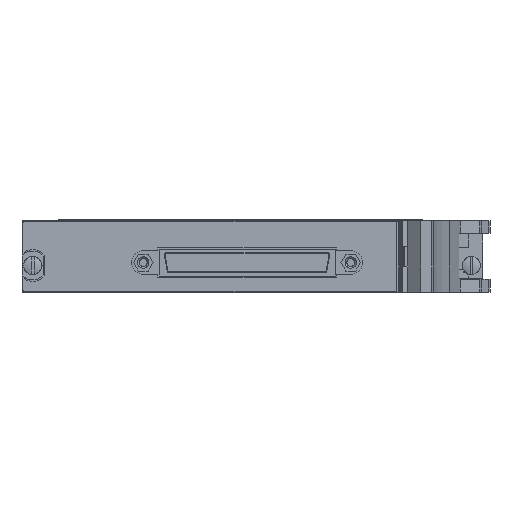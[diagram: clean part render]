
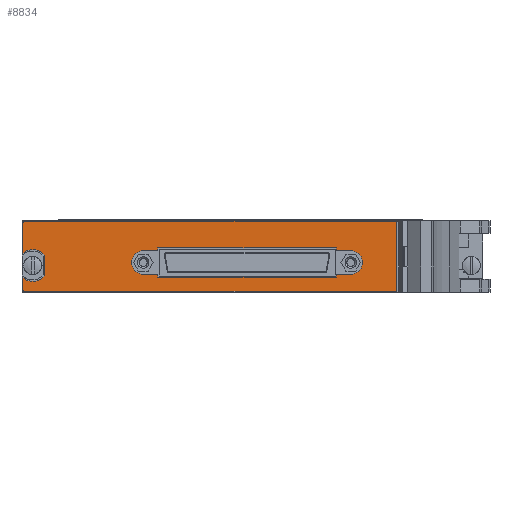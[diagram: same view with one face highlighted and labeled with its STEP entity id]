
A CAD part, left-side view. The second image highlights one B-rep face of the part: STEP entity #8834.
In plain terms, the highlighted planar face has unit normal (-1, 0, 0).
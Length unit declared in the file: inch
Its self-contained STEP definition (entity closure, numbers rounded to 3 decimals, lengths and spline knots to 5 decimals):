
#2443=CARTESIAN_POINT('',(-0.215,0.527,0.665));
#2444=DIRECTION('',(-1.,0.,0.));
#2445=DIRECTION('',(0.,0.,1.));
#2446=AXIS2_PLACEMENT_3D('',#2443,#2444,#2445);
#2448=DIRECTION('',(0.,1.,0.));
#2449=VECTOR('',#2448,4.07);
#2450=CARTESIAN_POINT('',(-0.215,-3.543,0.685));
#2451=LINE('',#2450,#2449);
#2452=CARTESIAN_POINT('',(-0.215,-3.543,0.665));
#2453=DIRECTION('',(-1.,0.,0.));
#2454=DIRECTION('',(0.,-1.,0.));
#2455=AXIS2_PLACEMENT_3D('',#2452,#2453,#2454);
#2457=DIRECTION('',(0.,0.,1.));
#2458=VECTOR('',#2457,0.728);
#2459=CARTESIAN_POINT('',(-0.215,-3.563,-0.063));
#2460=LINE('',#2459,#2458);
#2461=CARTESIAN_POINT('',(-0.215,-3.543,-0.063));
#2462=DIRECTION('',(-1.,0.,0.));
#2463=DIRECTION('',(0.,0.,-1.));
#2464=AXIS2_PLACEMENT_3D('',#2461,#2462,#2463);
#2466=DIRECTION('',(0.,-1.,0.));
#2467=VECTOR('',#2466,4.07);
#2468=CARTESIAN_POINT('',(-0.215,0.527,-0.083));
#2469=LINE('',#2468,#2467);
#2470=CARTESIAN_POINT('',(-0.215,0.527,-0.063));
#2471=DIRECTION('',(-1.,0.,0.));
#2472=DIRECTION('',(0.,1.,0.));
#2473=AXIS2_PLACEMENT_3D('',#2470,#2471,#2472);
#2475=DIRECTION('',(0.,0.,-1.));
#2476=VECTOR('',#2475,0.1263);
#2477=CARTESIAN_POINT('',(-0.215,0.547,0.0633));
#2478=LINE('',#2477,#2476);
#2479=CARTESIAN_POINT('',(-0.215,0.439,0.201));
#2480=DIRECTION('',(1.,0.,0.));
#2481=DIRECTION('',(0.,-0.76,-0.65));
#2482=AXIS2_PLACEMENT_3D('',#2479,#2480,#2481);
#2484=DIRECTION('',(0.,0.,-1.));
#2485=VECTOR('',#2484,0.22747);
#2486=CARTESIAN_POINT('',(-0.215,0.306,0.31474));
#2487=LINE('',#2486,#2485);
#2488=CARTESIAN_POINT('',(-0.215,0.439,0.201));
#2489=DIRECTION('',(1.,0.,0.));
#2490=DIRECTION('',(0.,0.617,0.787));
#2491=AXIS2_PLACEMENT_3D('',#2488,#2489,#2490);
#2493=DIRECTION('',(0.,0.,-1.));
#2494=VECTOR('',#2493,0.3263);
#2495=CARTESIAN_POINT('',(-0.215,0.547,0.665));
#2496=LINE('',#2495,#2494);
#2497=DIRECTION('',(0.,1.,0.));
#2498=VECTOR('',#2497,1.964);
#2499=CARTESIAN_POINT('',(-0.215,-2.897,0.3955));
#2500=LINE('',#2499,#2498);
#2501=DIRECTION('',(0.,0.,-1.));
#2502=VECTOR('',#2501,0.0325);
#2503=CARTESIAN_POINT('',(-0.215,-0.933,0.3955));
#2504=LINE('',#2503,#2502);
#2505=DIRECTION('',(0.,1.,0.));
#2506=VECTOR('',#2505,0.158);
#2507=CARTESIAN_POINT('',(-0.215,-0.933,0.363));
#2508=LINE('',#2507,#2506);
#2509=CARTESIAN_POINT('',(-0.215,-0.775,0.233));
#2510=DIRECTION('',(-1.,0.,0.));
#2511=DIRECTION('',(0.,0.,1.));
#2512=AXIS2_PLACEMENT_3D('',#2509,#2510,#2511);
#2514=DIRECTION('',(0.,-1.,0.));
#2515=VECTOR('',#2514,0.158);
#2516=CARTESIAN_POINT('',(-0.215,-0.775,0.103));
#2517=LINE('',#2516,#2515);
#2518=DIRECTION('',(0.,0.,-1.));
#2519=VECTOR('',#2518,0.0325);
#2520=CARTESIAN_POINT('',(-0.215,-0.933,0.103));
#2521=LINE('',#2520,#2519);
#2522=DIRECTION('',(0.,-1.,0.));
#2523=VECTOR('',#2522,1.964);
#2524=CARTESIAN_POINT('',(-0.215,-0.933,0.0705));
#2525=LINE('',#2524,#2523);
#2526=DIRECTION('',(0.,0.,1.));
#2527=VECTOR('',#2526,0.0325);
#2528=CARTESIAN_POINT('',(-0.215,-2.897,0.0705));
#2529=LINE('',#2528,#2527);
#2530=DIRECTION('',(0.,-1.,0.));
#2531=VECTOR('',#2530,0.158);
#2532=CARTESIAN_POINT('',(-0.215,-2.897,0.103));
#2533=LINE('',#2532,#2531);
#2534=CARTESIAN_POINT('',(-0.215,-3.055,0.233));
#2535=DIRECTION('',(-1.,0.,0.));
#2536=DIRECTION('',(0.,0.,-1.));
#2537=AXIS2_PLACEMENT_3D('',#2534,#2535,#2536);
#2539=DIRECTION('',(0.,1.,0.));
#2540=VECTOR('',#2539,0.158);
#2541=CARTESIAN_POINT('',(-0.215,-3.055,0.363));
#2542=LINE('',#2541,#2540);
#2543=DIRECTION('',(0.,0.,1.));
#2544=VECTOR('',#2543,0.0325);
#2545=CARTESIAN_POINT('',(-0.215,-2.897,0.363));
#2546=LINE('',#2545,#2544);
#5075=CARTESIAN_POINT('',(-0.215,0.527,0.685));
#5076=CARTESIAN_POINT('',(-0.215,0.547,0.665));
#5077=VERTEX_POINT('',#5075);
#5078=VERTEX_POINT('',#5076);
#5079=CARTESIAN_POINT('',(-0.215,0.547,0.3387));
#5080=VERTEX_POINT('',#5079);
#5081=CARTESIAN_POINT('',(-0.215,0.306,0.31474));
#5082=VERTEX_POINT('',#5081);
#5083=CARTESIAN_POINT('',(-0.215,0.306,0.08726));
#5084=VERTEX_POINT('',#5083);
#5085=CARTESIAN_POINT('',(-0.215,0.547,0.0633));
#5086=VERTEX_POINT('',#5085);
#5087=CARTESIAN_POINT('',(-0.215,0.547,-0.063));
#5088=VERTEX_POINT('',#5087);
#5089=CARTESIAN_POINT('',(-0.215,0.527,-0.083));
#5090=VERTEX_POINT('',#5089);
#5091=CARTESIAN_POINT('',(-0.215,-3.543,-0.083));
#5092=VERTEX_POINT('',#5091);
#5093=CARTESIAN_POINT('',(-0.215,-3.563,-0.063));
#5094=VERTEX_POINT('',#5093);
#5095=CARTESIAN_POINT('',(-0.215,-3.563,0.665));
#5096=VERTEX_POINT('',#5095);
#5097=CARTESIAN_POINT('',(-0.215,-3.543,0.685));
#5098=VERTEX_POINT('',#5097);
#5099=CARTESIAN_POINT('',(-0.215,-2.897,0.3955));
#5100=CARTESIAN_POINT('',(-0.215,-0.933,0.3955));
#5101=VERTEX_POINT('',#5099);
#5102=VERTEX_POINT('',#5100);
#5103=CARTESIAN_POINT('',(-0.215,-0.933,0.363));
#5104=VERTEX_POINT('',#5103);
#5105=CARTESIAN_POINT('',(-0.215,-0.775,0.363));
#5106=VERTEX_POINT('',#5105);
#5107=CARTESIAN_POINT('',(-0.215,-0.775,0.103));
#5108=VERTEX_POINT('',#5107);
#5109=CARTESIAN_POINT('',(-0.215,-0.933,0.103));
#5110=VERTEX_POINT('',#5109);
#5111=CARTESIAN_POINT('',(-0.215,-0.933,0.0705));
#5112=VERTEX_POINT('',#5111);
#5113=CARTESIAN_POINT('',(-0.215,-2.897,0.0705));
#5114=VERTEX_POINT('',#5113);
#5115=CARTESIAN_POINT('',(-0.215,-2.897,0.103));
#5116=VERTEX_POINT('',#5115);
#5117=CARTESIAN_POINT('',(-0.215,-3.055,0.103));
#5118=VERTEX_POINT('',#5117);
#5119=CARTESIAN_POINT('',(-0.215,-3.055,0.363));
#5120=VERTEX_POINT('',#5119);
#5121=CARTESIAN_POINT('',(-0.215,-2.897,0.363));
#5122=VERTEX_POINT('',#5121);
#8788=CARTESIAN_POINT('',(-0.215,0.439,0.201));
#8789=DIRECTION('',(-1.,0.,0.));
#8790=DIRECTION('',(0.,0.,1.));
#8791=AXIS2_PLACEMENT_3D('',#8788,#8789,#8790);
#8792=PLANE('',#8791);
#8793=ORIENTED_EDGE('',*,*,#7954,.F.);
#8795=ORIENTED_EDGE('',*,*,#8794,.F.);
#8796=ORIENTED_EDGE('',*,*,#8655,.F.);
#8797=ORIENTED_EDGE('',*,*,#8671,.F.);
#8798=ORIENTED_EDGE('',*,*,#8685,.F.);
#8799=ORIENTED_EDGE('',*,*,#8699,.F.);
#8800=ORIENTED_EDGE('',*,*,#8713,.F.);
#8801=ORIENTED_EDGE('',*,*,#8727,.F.);
#8802=ORIENTED_EDGE('',*,*,#8741,.F.);
#8803=ORIENTED_EDGE('',*,*,#8755,.F.);
#8804=ORIENTED_EDGE('',*,*,#8769,.F.);
#8805=ORIENTED_EDGE('',*,*,#8782,.F.);
#8806=EDGE_LOOP('',(#8793,#8795,#8796,#8797,#8798,#8799,#8800,#8801,#8802,#8803,
#8804,#8805));
#8807=FACE_OUTER_BOUND('',#8806,.F.);
#8809=ORIENTED_EDGE('',*,*,#8808,.T.);
#8811=ORIENTED_EDGE('',*,*,#8810,.T.);
#8813=ORIENTED_EDGE('',*,*,#8812,.T.);
#8815=ORIENTED_EDGE('',*,*,#8814,.T.);
#8817=ORIENTED_EDGE('',*,*,#8816,.T.);
#8819=ORIENTED_EDGE('',*,*,#8818,.T.);
#8821=ORIENTED_EDGE('',*,*,#8820,.T.);
#8823=ORIENTED_EDGE('',*,*,#8822,.T.);
#8825=ORIENTED_EDGE('',*,*,#8824,.T.);
#8827=ORIENTED_EDGE('',*,*,#8826,.T.);
#8829=ORIENTED_EDGE('',*,*,#8828,.T.);
#8831=ORIENTED_EDGE('',*,*,#8830,.T.);
#8832=EDGE_LOOP('',(#8809,#8811,#8813,#8815,#8817,#8819,#8821,#8823,#8825,#8827,
#8829,#8831));
#8833=FACE_BOUND('',#8832,.F.);
#8834=ADVANCED_FACE('',(#8807,#8833),#8792,.T.);
#2447=CIRCLE('',#2446,0.02);
#2456=CIRCLE('',#2455,0.02);
#2465=CIRCLE('',#2464,0.02);
#2474=CIRCLE('',#2473,0.02);
#2483=CIRCLE('',#2482,0.175);
#2492=CIRCLE('',#2491,0.175);
#2513=CIRCLE('',#2512,0.13);
#2538=CIRCLE('',#2537,0.13);
#7954=EDGE_CURVE('',#5077,#5078,#2447,.T.);
#8655=EDGE_CURVE('',#5096,#5098,#2456,.T.);
#8671=EDGE_CURVE('',#5094,#5096,#2460,.T.);
#8685=EDGE_CURVE('',#5092,#5094,#2465,.T.);
#8699=EDGE_CURVE('',#5090,#5092,#2469,.T.);
#8713=EDGE_CURVE('',#5088,#5090,#2474,.T.);
#8727=EDGE_CURVE('',#5086,#5088,#2478,.T.);
#8741=EDGE_CURVE('',#5084,#5086,#2483,.T.);
#8755=EDGE_CURVE('',#5082,#5084,#2487,.T.);
#8769=EDGE_CURVE('',#5080,#5082,#2492,.T.);
#8782=EDGE_CURVE('',#5078,#5080,#2496,.T.);
#8794=EDGE_CURVE('',#5098,#5077,#2451,.T.);
#8808=EDGE_CURVE('',#5101,#5102,#2500,.T.);
#8810=EDGE_CURVE('',#5102,#5104,#2504,.T.);
#8812=EDGE_CURVE('',#5104,#5106,#2508,.T.);
#8814=EDGE_CURVE('',#5106,#5108,#2513,.T.);
#8816=EDGE_CURVE('',#5108,#5110,#2517,.T.);
#8818=EDGE_CURVE('',#5110,#5112,#2521,.T.);
#8820=EDGE_CURVE('',#5112,#5114,#2525,.T.);
#8822=EDGE_CURVE('',#5114,#5116,#2529,.T.);
#8824=EDGE_CURVE('',#5116,#5118,#2533,.T.);
#8826=EDGE_CURVE('',#5118,#5120,#2538,.T.);
#8828=EDGE_CURVE('',#5120,#5122,#2542,.T.);
#8830=EDGE_CURVE('',#5122,#5101,#2546,.T.);
